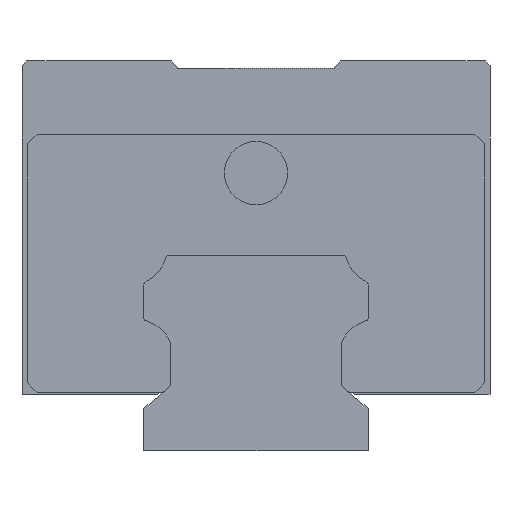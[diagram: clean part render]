
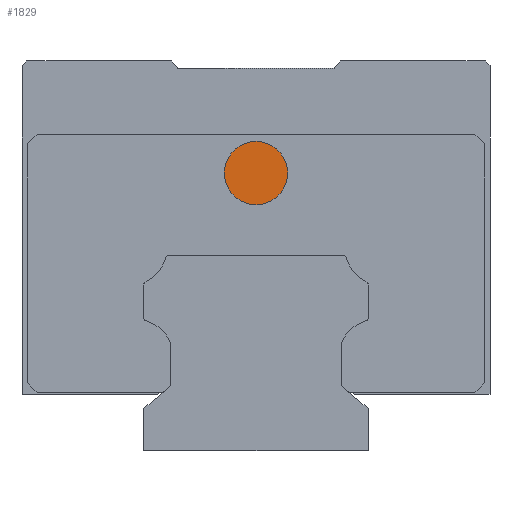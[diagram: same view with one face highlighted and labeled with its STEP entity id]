
A CAD part, left-side view. The second image highlights one B-rep face of the part: STEP entity #1829.
In plain terms, the highlighted planar face has unit normal (-1, 0, 0).
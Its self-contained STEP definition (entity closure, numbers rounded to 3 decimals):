
#155 = DIRECTION ( 'NONE',  ( 1., 0., 0. ) ) ;
#469 = EDGE_LOOP ( 'NONE', ( #3004, #1954 ) ) ;
#506 = AXIS2_PLACEMENT_3D ( 'NONE', #3088, #4901, #811 ) ;
#811 = DIRECTION ( 'NONE',  ( 0., 0., -1. ) ) ;
#1160 = DIRECTION ( 'NONE',  ( 0., 0., -1. ) ) ;
#1243 = PLANE ( 'NONE',  #506 ) ;
#1283 = EDGE_CURVE ( 'NONE', #1612, #2589, #4855, .T. ) ;
#1612 = VERTEX_POINT ( 'NONE', #3764 ) ;
#1665 = CIRCLE ( 'NONE', #3017, 3.25 ) ;
#1829 = ADVANCED_FACE ( 'NONE', ( #3532 ), #1243, .T. ) ;
#1950 = CARTESIAN_POINT ( 'NONE',  ( -29.5, 0., 28.5 ) ) ;
#1954 = ORIENTED_EDGE ( 'NONE', *, *, #1283, .F. ) ;
#1979 = DIRECTION ( 'NONE',  ( 0., 0., -1. ) ) ;
#2589 = VERTEX_POINT ( 'NONE', #4766 ) ;
#3004 = ORIENTED_EDGE ( 'NONE', *, *, #4277, .F. ) ;
#3017 = AXIS2_PLACEMENT_3D ( 'NONE', #1950, #155, #1979 ) ;
#3088 = CARTESIAN_POINT ( 'NONE',  ( -29.5, 0., 28.5 ) ) ;
#3391 = CARTESIAN_POINT ( 'NONE',  ( -29.5, 0., 28.5 ) ) ;
#3447 = DIRECTION ( 'NONE',  ( 1., 0., 0. ) ) ;
#3532 = FACE_OUTER_BOUND ( 'NONE', #469, .T. ) ;
#3764 = CARTESIAN_POINT ( 'NONE',  ( -29.5, 0., 25.25 ) ) ;
#4188 = AXIS2_PLACEMENT_3D ( 'NONE', #3391, #3447, #1160 ) ;
#4277 = EDGE_CURVE ( 'NONE', #2589, #1612, #1665, .T. ) ;
#4766 = CARTESIAN_POINT ( 'NONE',  ( -29.5, 0., 31.75 ) ) ;
#4855 = CIRCLE ( 'NONE', #4188, 3.25 ) ;
#4901 = DIRECTION ( 'NONE',  ( -1., 0., 0. ) ) ;
